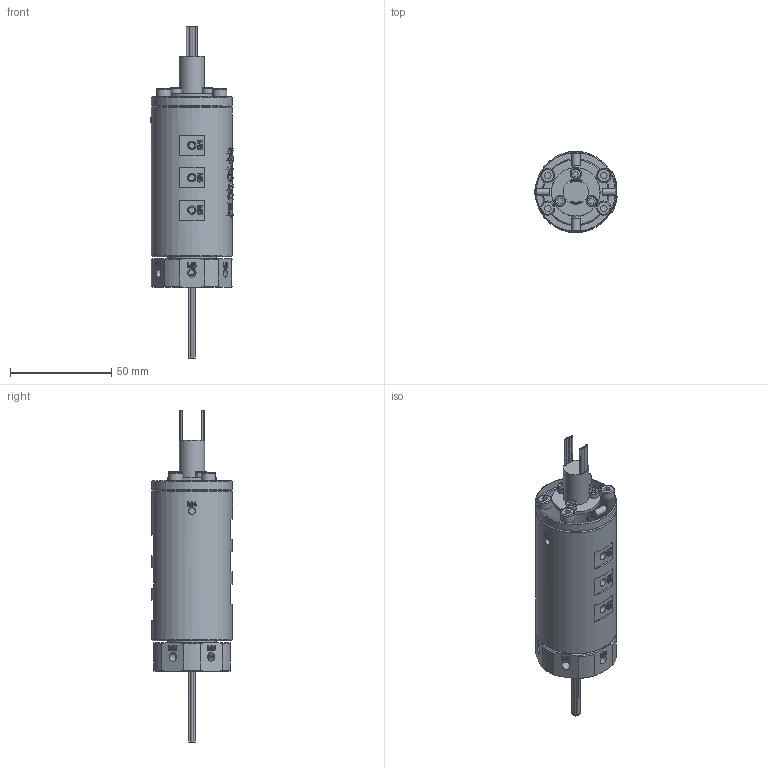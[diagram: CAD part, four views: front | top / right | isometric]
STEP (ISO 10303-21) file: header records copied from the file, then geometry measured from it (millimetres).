
FILE_DESCRIPTION(/* description */ (''),/* implementation_level */ '2;1');
FILE_NAME(/* name */ 'HQ06005-12M.stp',/* time_stamp */ '2025-09-01T15:57:30+08:00',/* author */ (''),/* organization */ (''),/* preprocessor_version */ 'ST-DEVELOPER v16.7',/* originating_system */ 'SIEMENS PLM Software NX 12.0',/* authorisation */ '');
FILE_SCHEMA (('AUTOMOTIVE_DESIGN { 1 0 10303 214 3 1 1 1 }'));
Products named in the file (1): AdmiB44865CDwd7q
Bounding box: 40.6 x 40 x 163.9 mm (x, y, z)
Volume: 117519 mm3; surface area: 23214.5 mm2
Topology: 1 solids, 9 shells, 1425 faces, 3804 edges, 2534 vertices
Faces by surface type: plane 688, extrusion 521, cylinder 122, bspline 58, cone 29, torus 7
Full cylindrical faces by diameter (mm): 0.8 x24, 3 x15, 3.4 x9, 4 x10, 4.1 x6, 4.2 x18, 5 x1, 5.5 x3, 6 x1, 7 x4, 12.4 x1, 23.9 x1, 24 x1, 32 x1, 40 x2
Entity records: 51727 total; most frequent: CARTESIAN_POINT 21303, ORIENTED_EDGE 7228, DIRECTION 3951, EDGE_CURVE 3614, B_SPLINE_CURVE_WITH_KNOTS 2814, VERTEX_POINT 2471, EDGE_LOOP 1713, VECTOR 1427
